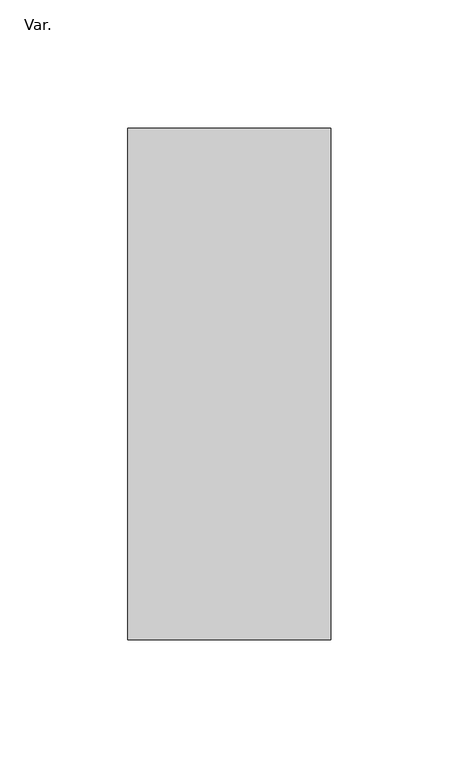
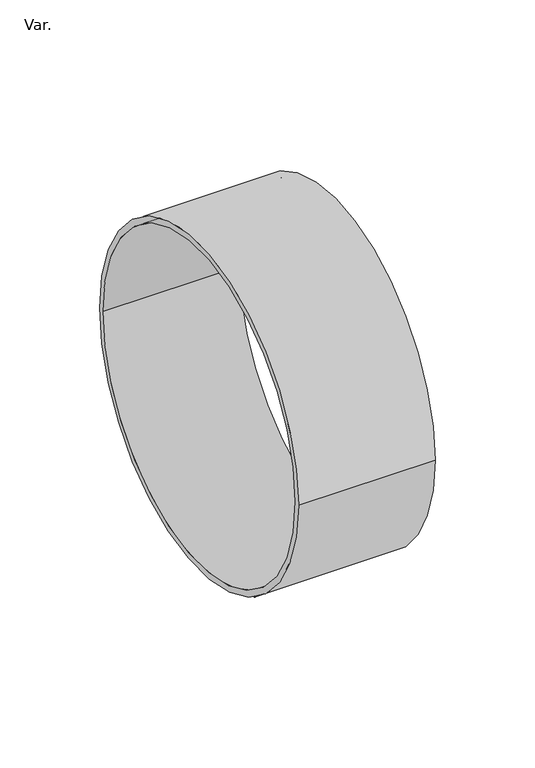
"""IFC4 building model written with IfcOpenShell, lengths in millimetres: pipe fitting geometry, AmancoWavin_ConexõesdeTubos_EsgotoZNãoUsarEsgotoCaixaSifProlongamento : Var.."""

from ifc_helpers import new_model, si_unit, point, frame, origin, origin_2d, place, context, project, spatial, circle_curve, trimmed, segment, composite_curve, outline, extrude, source, transform, mapped, element, save


def var_e4b9970f(model_context):
    return source(origin(), model_context, "Body", "SweptSolid", [
        extrude(outline(composite_curve([segment(trimmed(circle_curve(origin_2d(), 100.0), [point((-100.0, 0.0))], [point((100.0, 0.0))], False, "CARTESIAN"), True, "CONTINUOUS"), segment(trimmed(circle_curve(origin_2d(), 100.0), [point((100.0, 0.0))], [point((-100.0, 0.0))], False, "CARTESIAN"), True, "CONTINUOUS")], self_intersect=False), holes=[composite_curve([segment(trimmed(circle_curve(origin_2d(), 96.4), [point((-96.4, 0.0))], [point((96.4, 0.0))], True, "CARTESIAN"), True, "CONTINUOUS"), segment(trimmed(circle_curve(origin_2d(), 96.4), [point((96.4, 0.0))], [point((-96.4, 0.0))], True, "CARTESIAN"), True, "CONTINUOUS")], self_intersect=False)]), frame((0.0, 0.0, 0.0), z_axis=(1.0, 0.0, 0.0), x_axis=(0.0, 1.0, 0.0)), (0.0, 0.0, 1.0), 79.2),
    ])


if __name__ == "__main__":
    model = new_model("IFC4")
    model_context = context("Model", 3, world=origin())
    ifc_project = project(units=[si_unit("LENGTHUNIT", "METRE", prefix="MILLI")], contexts=[model_context])
    site = spatial("IfcSite", under=ifc_project)
    building = spatial("IfcBuilding", under=site)
    placement = place(None, origin())
    var_shape = var_e4b9970f(model_context)
    element("IfcPipeFitting", 1, ObjectType="AmancoWavin_ConexõesdeTubos_EsgotoZNãoUsarEsgotoCaixaSifProlongamento : Var.", at=placement, inside=building, context=model_context, shape_type="MappedRepresentation", body=[
        mapped(var_shape, transform((0.0, 0.0, 0.0), x_axis=(1.0, 0.0, 0.0), y_axis=(0.0, 1.0, 0.0), z_axis=(0.0, 0.0, 1.0))),
    ])
    save(model, "model.ifc")
